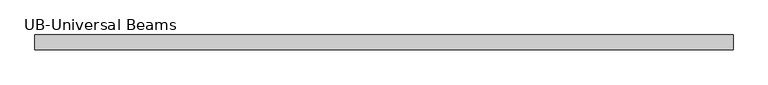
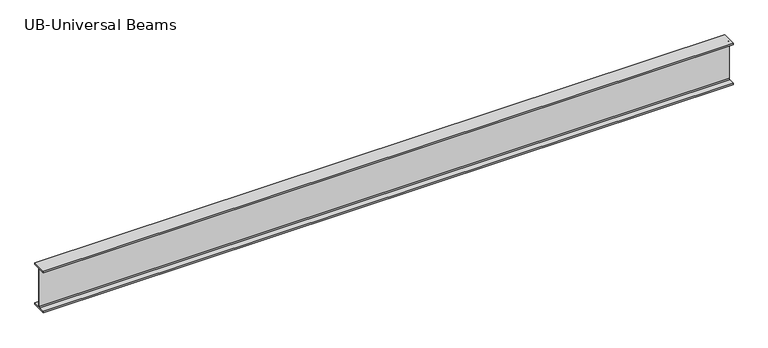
"""IFC4 building model written with IfcOpenShell, lengths in millimetres: beam geometry."""

from ifc_helpers import new_model, si_unit, point, frame, frame_2d, origin, place, context, project, spatial, polyline, circle_curve, trimmed, segment, composite_curve, outline, extrude, source, transform, mapped, element, save


def ub_universal_beams_2db27d90(model_context):
    return source(origin(), model_context, "Body", "SweptSolid", [
        extrude(outline(composite_curve([segment(polyline([(76.9, -214.0), (76.9, -229.0), (-76.9, -229.0), (-76.9, -214.0), (-14.7, -214.0)]), True, "CONTINUOUS"), segment(trimmed(circle_curve(frame_2d((-14.7, -203.8)), 10.2), [point((-14.7, -214.0))], [point((-4.5, -203.8))], True, "CARTESIAN"), True, "CONTINUOUS"), segment(polyline([(-4.5, -203.8), (-4.5, 203.8)]), True, "CONTINUOUS"), segment(trimmed(circle_curve(frame_2d((-14.7, 203.8)), 10.2), [point((-4.5, 203.8))], [point((-14.7, 214.0))], True, "CARTESIAN"), True, "CONTINUOUS"), segment(polyline([(-14.7, 214.0), (-76.9, 214.0), (-76.9, 229.0), (76.9, 229.0), (76.9, 214.0), (14.7, 214.0)]), True, "CONTINUOUS"), segment(trimmed(circle_curve(frame_2d((14.7, 203.8)), 10.2), [point((14.7, 214.0))], [point((4.5, 203.8))], True, "CARTESIAN"), True, "CONTINUOUS"), segment(polyline([(4.5, 203.8), (4.5, -203.8)]), True, "CONTINUOUS"), segment(trimmed(circle_curve(frame_2d((14.7, -203.8)), 10.2), [point((4.5, -203.8))], [point((14.7, -214.0))], True, "CARTESIAN"), True, "CONTINUOUS"), segment(polyline([(14.7, -214.0), (76.9, -214.0)]), True, "CONTINUOUS")], self_intersect=False)), frame((-3580.6, 0.0, 0.0), z_axis=(1.0, 0.0, 0.0), x_axis=(0.0, 1.0, 0.0)), (0.0, 0.0, 1.0), 7217.9),
    ])


if __name__ == "__main__":
    model = new_model("IFC4")
    model_context = context("Model", 3, world=origin())
    ifc_project = project(units=[si_unit("LENGTHUNIT", "METRE", prefix="MILLI")], contexts=[model_context])
    site = spatial("IfcSite", under=ifc_project)
    building = spatial("IfcBuilding", under=site)
    placement = place(None, origin())
    ub_universal_beams_shape = ub_universal_beams_2db27d90(model_context)
    element("IfcBeam", 1, ObjectType="UB-Universal Beams : UB 18\" x 6\" x 2 1/2\"", at=placement, inside=building, context=model_context, shape_type="MappedRepresentation", body=[
        mapped(ub_universal_beams_shape, transform((0.0, 0.0, 0.0), x_axis=(1.0, 0.0, 0.0), y_axis=(0.0, 1.0, 0.0), z_axis=(0.0, 0.0, 1.0))),
    ])
    save(model, "model.ifc")
